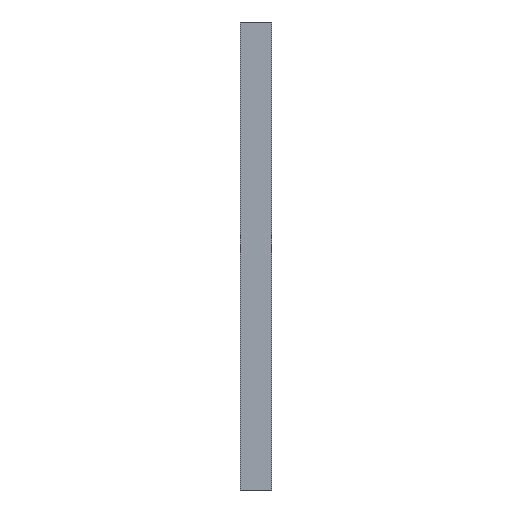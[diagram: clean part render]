
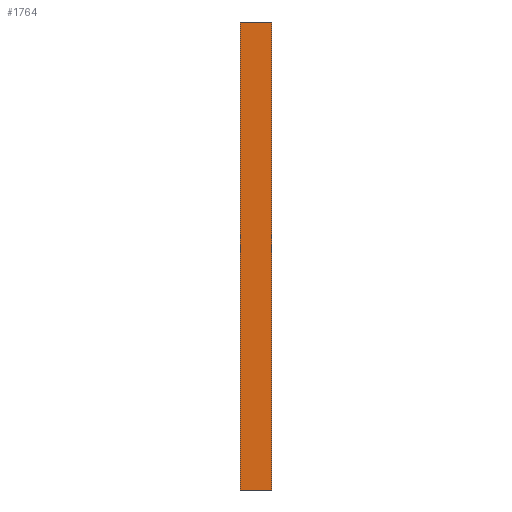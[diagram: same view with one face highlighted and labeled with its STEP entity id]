
A CAD part, front view. The second image highlights one B-rep face of the part: STEP entity #1764.
In plain terms, the highlighted planar face has unit normal (0, -1, 0).
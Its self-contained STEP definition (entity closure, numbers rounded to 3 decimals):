
#136=ORIENTED_EDGE('',*,*,#675,.F.);
#137=ORIENTED_EDGE('',*,*,#674,.F.);
#138=ORIENTED_EDGE('',*,*,#676,.T.);
#139=ORIENTED_EDGE('',*,*,#677,.T.);
#674=EDGE_CURVE('',#943,#942,#1122,.T.);
#675=EDGE_CURVE('',#942,#944,#1123,.T.);
#676=EDGE_CURVE('',#943,#945,#1124,.T.);
#677=EDGE_CURVE('',#945,#944,#1125,.T.);
#942=VERTEX_POINT('',#2571);
#943=VERTEX_POINT('',#2573);
#944=VERTEX_POINT('',#2577);
#945=VERTEX_POINT('',#2579);
#1122=LINE('',#2574,#1320);
#1123=LINE('',#2576,#1321);
#1124=LINE('',#2578,#1322);
#1125=LINE('',#2580,#1323);
#1320=VECTOR('',#2045,1000.);
#1321=VECTOR('',#2048,1000.);
#1322=VECTOR('',#2049,1000.);
#1323=VECTOR('',#2050,1000.);
#1516=EDGE_LOOP('',(#136,#137,#138,#139));
#1612=FACE_BOUND('',#1516,.T.);
#1707=PLANE('',#1871);
#1764=ADVANCED_FACE('',(#1612),#1707,.T.);
#1871=AXIS2_PLACEMENT_3D('',#2575,#2046,#2047);
#2045=DIRECTION('',(0.,0.,1.));
#2046=DIRECTION('',(0.,-1.,0.));
#2047=DIRECTION('',(0.,0.,-1.));
#2048=DIRECTION('',(1.,0.,0.));
#2049=DIRECTION('',(1.,0.,0.));
#2050=DIRECTION('',(0.,0.,1.));
#2571=CARTESIAN_POINT('',(-59.757,0.,0.));
#2573=CARTESIAN_POINT('',(-59.757,0.,-1800.));
#2574=CARTESIAN_POINT('',(-59.757,0.,-1800.));
#2575=CARTESIAN_POINT('',(-59.757,0.,-1800.));
#2576=CARTESIAN_POINT('',(-59.757,0.,0.));
#2577=CARTESIAN_POINT('',(59.757,0.,0.));
#2578=CARTESIAN_POINT('',(-59.757,0.,-1800.));
#2579=CARTESIAN_POINT('',(59.757,0.,-1800.));
#2580=CARTESIAN_POINT('',(59.757,0.,-1800.));
